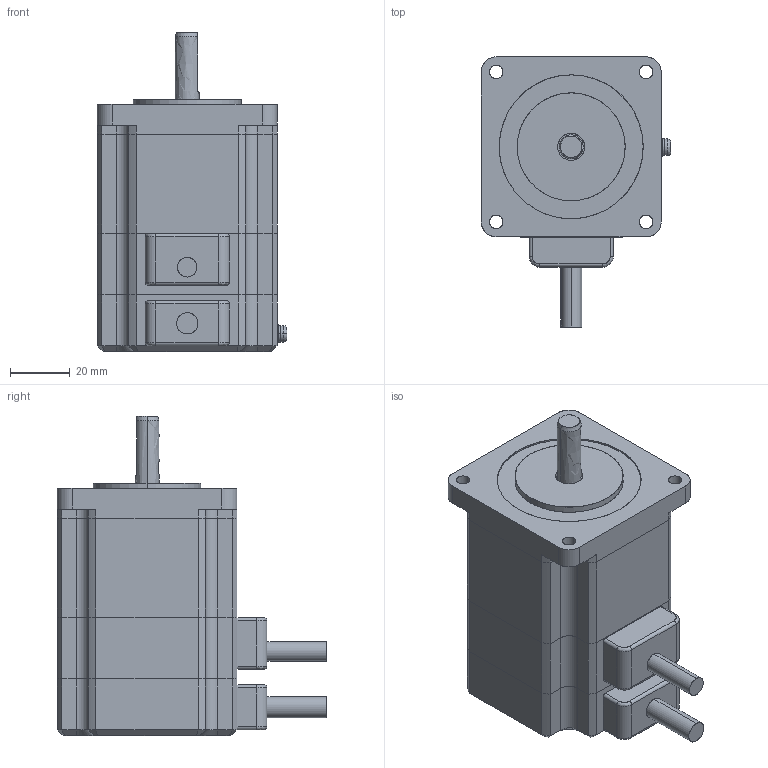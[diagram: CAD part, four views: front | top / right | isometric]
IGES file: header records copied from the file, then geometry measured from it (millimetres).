
Start section: SolidWorks IGES file using analytic representation for surfaces
Global section: file name: C:\Users\7666\Desktop\PMSA-B60D3E_3D\PMSA-B60D3E.IGS; native system: SolidWorks 2018; preprocessor: SolidWorks 2018; author: 7666; date: 220414.085359; units: millimetre
Bounding box: 63.2 x 90 x 106.6 mm (x, y, z)
Surface area: 50511.2 mm2 (no closed solid volume)
Topology: 0 solids, 0 shells, 223 faces, 2513 edges, 2513 vertices
Faces by surface type: revolution 113, bspline 110
